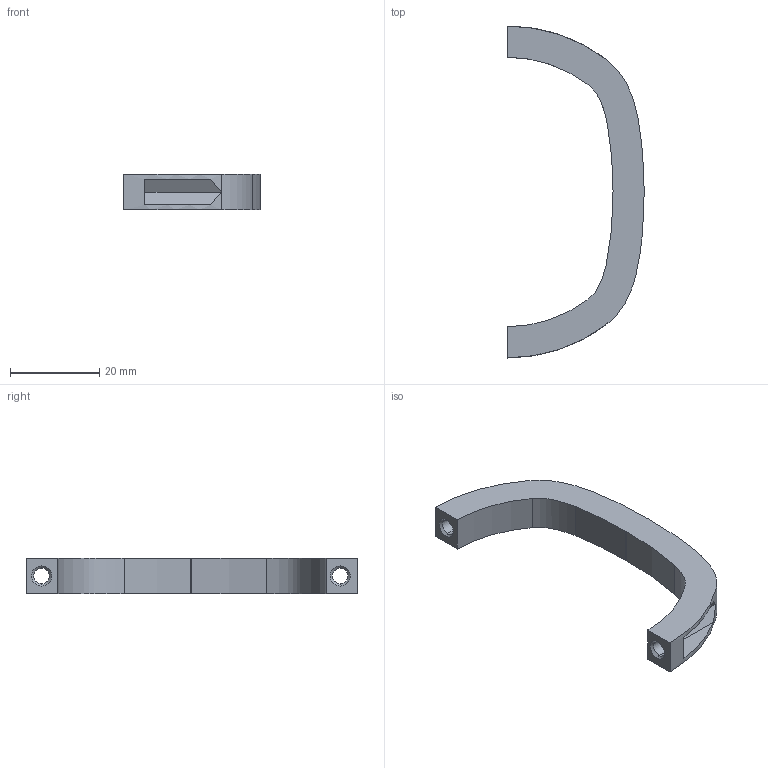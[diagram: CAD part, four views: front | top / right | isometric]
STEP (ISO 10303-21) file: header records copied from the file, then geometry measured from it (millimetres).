
FILE_DESCRIPTION (( 'STEP AP203' ), '1' );
FILE_NAME ('G1手腕相机支架-下装-抱紧环.STEP', '2025-08-21T06:34:54', ( '' ), ( '' ), 'SwSTEP 2.0', 'SolidWorks 2023', '' );
FILE_SCHEMA (( 'CONFIG_CONTROL_DESIGN' ));
Length unit declared in the file: millimetre
Products named in the file (1): G1手腕相机支架-下装-抱紧环
Bounding box: 30.62 x 74.49 x 8 mm (x, y, z)
Volume: 4873 mm3; surface area: 3447.5 mm2
Topology: 1 solids, 1 shells, 40 faces, 104 edges, 68 vertices
Faces by surface type: plane 20, cylinder 8, bspline 8, cone 4
Entity records: 1712 total; most frequent: CARTESIAN_POINT 688, ORIENTED_EDGE 208, DIRECTION 174, EDGE_CURVE 104, VERTEX_POINT 68, VECTOR 60, LINE 60, AXIS2_PLACEMENT_3D 57
